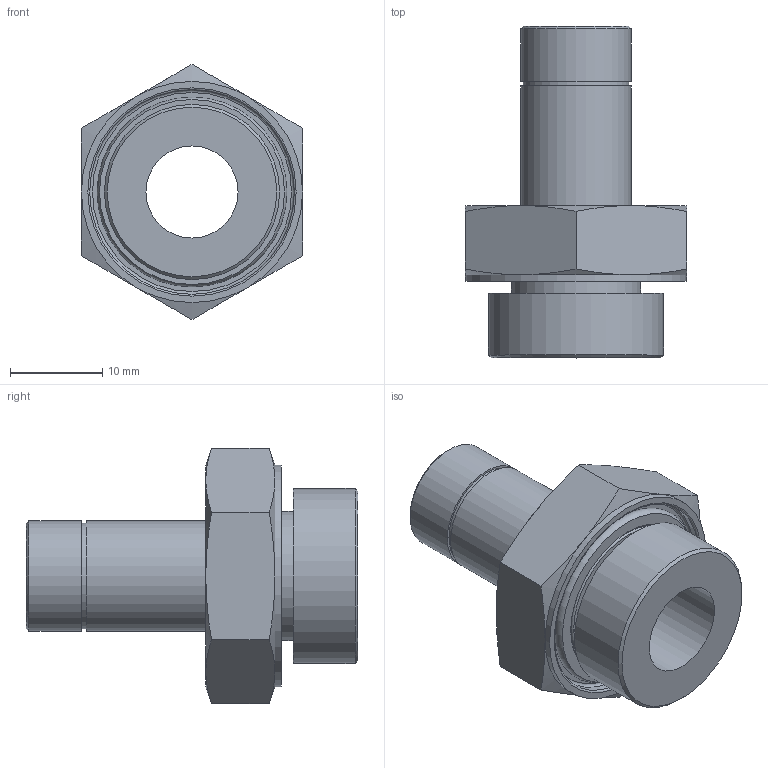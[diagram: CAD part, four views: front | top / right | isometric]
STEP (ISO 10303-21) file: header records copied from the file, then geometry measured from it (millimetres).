
FILE_DESCRIPTION(/* description */ (''),/* implementation_level */ '2;1');
FILE_NAME(/* name */ 'LXH16 0012 B4.stp',/* time_stamp */ '2026-04-29T14:47:21+02:00',/* author */ ('freju'),/* organization */ (''),/* preprocessor_version */ 'ST-DEVELOPER v20.1',/* originating_system */ 'Autodesk Inventor 2026',/* authorisation */ '');
FILE_SCHEMA (('AUTOMOTIVE_DESIGN { 1 0 10303 214 3 1 1 }'));
Length unit declared in the file: millimetre
Products named in the file (4): LXH16 0012 B4; LXH16 0012 B4_1; O-Ring; ISO 3601-1 - A 0170 G
Assembly tree (3 placements, depth 3):
  LXH16 0012 B4
    LXH16 0012 B4_1
    O-Ring
      ISO 3601-1 - A 0170 G
Bounding box: 24 x 36 x 27.71 mm (x, y, z)
Volume: 5514.3 mm3; surface area: 4536.1 mm2
Topology: 2 solids, 2 shells, 46 faces, 92 edges, 57 vertices
Faces by surface type: plane 17, cone 14, cylinder 9, torus 6
Full cylindrical faces by diameter (mm): 10 x1, 11.5 x1, 12 x2, 14 x1, 17 x1, 19 x1, 22.2 x1, 24 x1
Entity records: 1329 total; most frequent: CARTESIAN_POINT 250, DIRECTION 225, ORIENTED_EDGE 184, AXIS2_PLACEMENT_3D 104, EDGE_CURVE 92, EDGE_LOOP 57, VERTEX_POINT 57, CIRCLE 51
